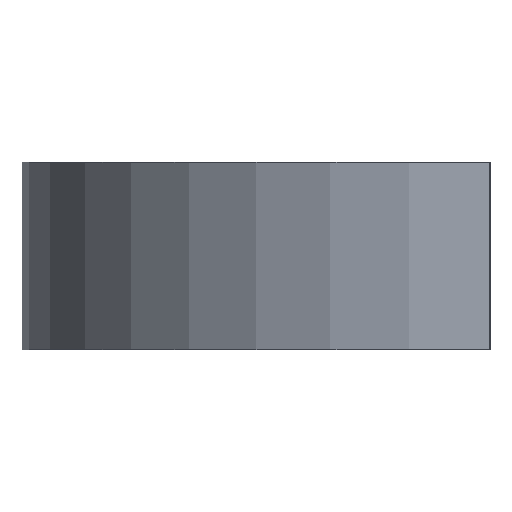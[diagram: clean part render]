
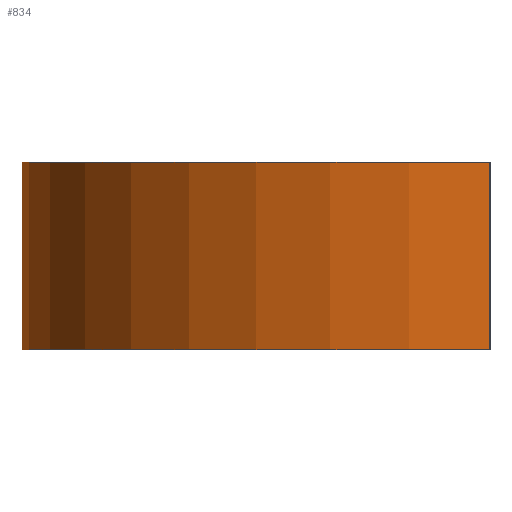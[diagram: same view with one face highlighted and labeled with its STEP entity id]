
A CAD part, left-side view. The second image highlights one B-rep face of the part: STEP entity #834.
In plain terms, the highlighted cylindrical face has radius 25 mm (diameter 50 mm), a partial arc.
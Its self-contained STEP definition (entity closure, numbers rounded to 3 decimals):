
#27 = ORIENTED_EDGE ( 'NONE', *, *, #878, .T. ) ;
#54 = CARTESIAN_POINT ( 'NONE',  ( 0., 0., 10. ) ) ;
#55 = CARTESIAN_POINT ( 'NONE',  ( 25., 0., 10. ) ) ;
#85 = AXIS2_PLACEMENT_3D ( 'NONE', #516, #238, #792 ) ;
#140 = LINE ( 'NONE', #317, #313 ) ;
#159 = AXIS2_PLACEMENT_3D ( 'NONE', #686, #616, #274 ) ;
#192 = DIRECTION ( 'NONE',  ( 0., 0., -1. ) ) ;
#222 = VECTOR ( 'NONE', #568, 1000. ) ;
#227 = ORIENTED_EDGE ( 'NONE', *, *, #723, .F. ) ;
#238 = DIRECTION ( 'NONE',  ( 0., 0., 1. ) ) ;
#265 = VERTEX_POINT ( 'NONE', #509 ) ;
#266 = DIRECTION ( 'NONE',  ( -1., 0., 0. ) ) ;
#271 = CYLINDRICAL_SURFACE ( 'NONE', #471, 25. ) ;
#274 = DIRECTION ( 'NONE',  ( 1., 0., 0. ) ) ;
#301 = VERTEX_POINT ( 'NONE', #55 ) ;
#313 = VECTOR ( 'NONE', #690, 1000. ) ;
#317 = CARTESIAN_POINT ( 'NONE',  ( 25., 0., 10. ) ) ;
#444 = CARTESIAN_POINT ( 'NONE',  ( -25., 0., 10. ) ) ;
#462 = CARTESIAN_POINT ( 'NONE',  ( -25., 0., 10. ) ) ;
#471 = AXIS2_PLACEMENT_3D ( 'NONE', #54, #192, #266 ) ;
#484 = EDGE_CURVE ( 'NONE', #301, #746, #140, .T. ) ;
#509 = CARTESIAN_POINT ( 'NONE',  ( -25., 0., 0. ) ) ;
#511 = ORIENTED_EDGE ( 'NONE', *, *, #484, .T. ) ;
#516 = CARTESIAN_POINT ( 'NONE',  ( 0., 0., 10. ) ) ;
#524 = FACE_OUTER_BOUND ( 'NONE', #729, .T. ) ;
#568 = DIRECTION ( 'NONE',  ( 0., 0., -1. ) ) ;
#570 = CIRCLE ( 'NONE', #159, 25. ) ;
#607 = VERTEX_POINT ( 'NONE', #462 ) ;
#616 = DIRECTION ( 'NONE',  ( 0., 0., 1. ) ) ;
#634 = CIRCLE ( 'NONE', #85, 25. ) ;
#686 = CARTESIAN_POINT ( 'NONE',  ( 0., 0., 0. ) ) ;
#690 = DIRECTION ( 'NONE',  ( 0., 0., -1. ) ) ;
#711 = LINE ( 'NONE', #444, #222 ) ;
#723 = EDGE_CURVE ( 'NONE', #607, #265, #711, .T. ) ;
#726 = CARTESIAN_POINT ( 'NONE',  ( 25., 0., 0. ) ) ;
#729 = EDGE_LOOP ( 'NONE', ( #27, #227, #775, #511 ) ) ;
#746 = VERTEX_POINT ( 'NONE', #726 ) ;
#775 = ORIENTED_EDGE ( 'NONE', *, *, #776, .F. ) ;
#776 = EDGE_CURVE ( 'NONE', #301, #607, #634, .T. ) ;
#792 = DIRECTION ( 'NONE',  ( 1., 0., 0. ) ) ;
#834 = ADVANCED_FACE ( 'NONE', ( #524 ), #271, .T. ) ;
#878 = EDGE_CURVE ( 'NONE', #746, #265, #570, .T. ) ;
